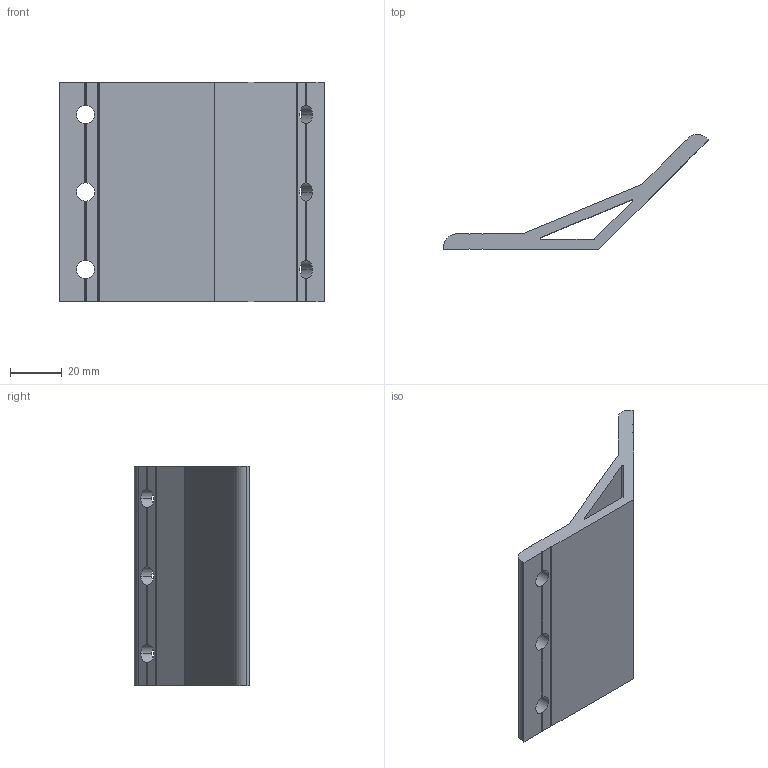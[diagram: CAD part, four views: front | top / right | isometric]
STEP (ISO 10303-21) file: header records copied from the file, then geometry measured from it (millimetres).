
FILE_DESCRIPTION (( 'STEP AP203' ), '1' );
FILE_NAME ('DALV1385-6.STEP', '2020-10-14T02:15:50', ( '' ), ( '' ), 'SwSTEP 2.0', 'SolidWorks 2017', '' );
FILE_SCHEMA (( 'CONFIG_CONTROL_DESIGN' ));
Length unit declared in the file: millimetre
Products named in the file (1): DALV1385-6
Bounding box: 102.43 x 44.58 x 85 mm (x, y, z)
Volume: 64746.2 mm3; surface area: 29222.5 mm2
Topology: 1 solids, 1 shells, 78 faces, 264 edges, 176 vertices
Faces by surface type: plane 60, cylinder 18
Entity records: 2973 total; most frequent: CARTESIAN_POINT 663, ORIENTED_EDGE 528, DIRECTION 434, EDGE_CURVE 264, VERTEX_POINT 176, VECTOR 156, LINE 156, AXIS2_PLACEMENT_3D 139
